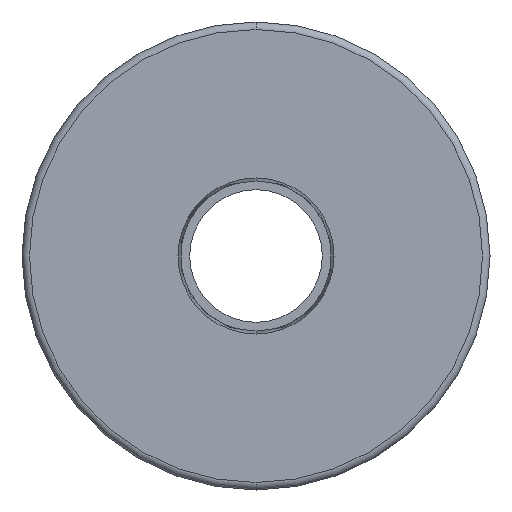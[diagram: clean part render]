
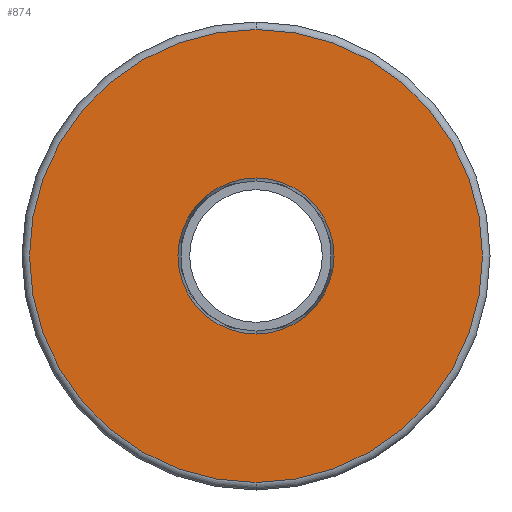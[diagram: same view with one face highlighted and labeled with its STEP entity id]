
A CAD part, front view. The second image highlights one B-rep face of the part: STEP entity #874.
In plain terms, the highlighted planar face has unit normal (0, -1, 0).
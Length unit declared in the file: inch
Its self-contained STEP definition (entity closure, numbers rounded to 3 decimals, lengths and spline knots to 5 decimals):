
#31 = ORIENTED_EDGE ( 'NONE', *, *, #910, .T. ) ;
#59 = ORIENTED_EDGE ( 'NONE', *, *, #826, .T. ) ;
#69 = CARTESIAN_POINT ( 'NONE',  ( 0., 0., 0. ) ) ;
#112 = ORIENTED_EDGE ( 'NONE', *, *, #738, .F. ) ;
#146 = CIRCLE ( 'NONE', #470, 1.815 ) ;
#147 = VERTEX_POINT ( 'NONE', #809 ) ;
#159 = DIRECTION ( 'NONE',  ( 0., -1., 0. ) ) ;
#264 = DIRECTION ( 'NONE',  ( 0., -1., 0. ) ) ;
#282 = AXIS2_PLACEMENT_3D ( 'NONE', #560, #159, #631 ) ;
#287 = ORIENTED_EDGE ( 'NONE', *, *, #780, .F. ) ;
#306 = FACE_BOUND ( 'NONE', #529, .T. ) ;
#336 = AXIS2_PLACEMENT_3D ( 'NONE', #69, #821, #405 ) ;
#344 = PLANE ( 'NONE',  #336 ) ;
#364 = CARTESIAN_POINT ( 'NONE',  ( 0., 0., 1.815 ) ) ;
#397 = VERTEX_POINT ( 'NONE', #611 ) ;
#405 = DIRECTION ( 'NONE',  ( 0., 0., 1. ) ) ;
#439 = EDGE_LOOP ( 'NONE', ( #31, #59 ) ) ;
#444 = CARTESIAN_POINT ( 'NONE',  ( 0., 0., -1.815 ) ) ;
#458 = DIRECTION ( 'NONE',  ( 0., 0., -1. ) ) ;
#470 = AXIS2_PLACEMENT_3D ( 'NONE', #656, #264, #728 ) ;
#474 = FACE_OUTER_BOUND ( 'NONE', #439, .T. ) ;
#527 = CIRCLE ( 'NONE', #592, 0.62546 ) ;
#529 = EDGE_LOOP ( 'NONE', ( #112, #287 ) ) ;
#531 = DIRECTION ( 'NONE',  ( 0., -1., 0. ) ) ;
#560 = CARTESIAN_POINT ( 'NONE',  ( 0., 0., 0. ) ) ;
#592 = AXIS2_PLACEMENT_3D ( 'NONE', #847, #531, #458 ) ;
#601 = AXIS2_PLACEMENT_3D ( 'NONE', #795, #798, #843 ) ;
#611 = CARTESIAN_POINT ( 'NONE',  ( 0., 0., -0.62546 ) ) ;
#623 = VERTEX_POINT ( 'NONE', #364 ) ;
#631 = DIRECTION ( 'NONE',  ( 0., 0., 1. ) ) ;
#656 = CARTESIAN_POINT ( 'NONE',  ( 0., 0., 0. ) ) ;
#674 = CIRCLE ( 'NONE', #601, 0.62546 ) ;
#688 = VERTEX_POINT ( 'NONE', #444 ) ;
#728 = DIRECTION ( 'NONE',  ( 0., 0., 1. ) ) ;
#738 = EDGE_CURVE ( 'NONE', #397, #147, #674, .T. ) ;
#755 = CIRCLE ( 'NONE', #282, 1.815 ) ;
#780 = EDGE_CURVE ( 'NONE', #147, #397, #527, .T. ) ;
#795 = CARTESIAN_POINT ( 'NONE',  ( 0., 0., 0. ) ) ;
#798 = DIRECTION ( 'NONE',  ( 0., -1., 0. ) ) ;
#809 = CARTESIAN_POINT ( 'NONE',  ( 0., 0., 0.62546 ) ) ;
#821 = DIRECTION ( 'NONE',  ( 0., 1., 0. ) ) ;
#826 = EDGE_CURVE ( 'NONE', #688, #623, #146, .T. ) ;
#843 = DIRECTION ( 'NONE',  ( 0., 0., -1. ) ) ;
#847 = CARTESIAN_POINT ( 'NONE',  ( 0., 0., 0. ) ) ;
#874 = ADVANCED_FACE ( 'NONE', ( #474, #306 ), #344, .F. ) ;
#910 = EDGE_CURVE ( 'NONE', #623, #688, #755, .T. ) ;
